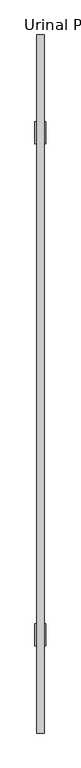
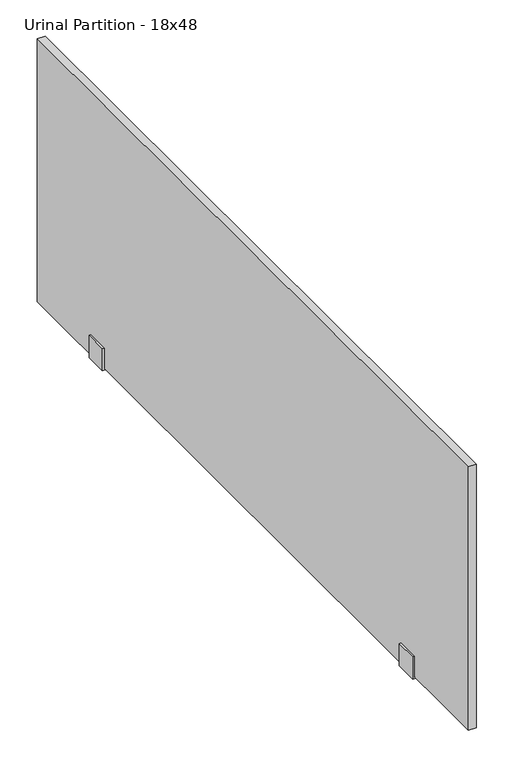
"""IFC4 building model written with IfcOpenShell, lengths in millimetres: proxy geometry, Urinal-Partition_Ironwood-Mfg : Urinal Partition - 18x48."""

from ifc_helpers import new_model, si_unit, frame, origin, place, context, project, spatial, polyline, outline, extrude, source, transform, mapped, element, save


def urinal_partition_18x48_9b326629(model_context):
    return source(origin(), model_context, "Body", "SweptSolid", [
        extrude(outline(polyline([(38.1, 6.35), (3.175, 6.35), (3.175, -6.35), (38.1, -6.35), (38.1, -9.525), (0.0, -9.525), (0.0, 9.525), (38.1, 9.525), (38.1, 6.35)])), frame((0.0, 1333.5, 0.0), z_axis=(0.0, 1.0, 0.0), x_axis=(0.0, 0.0, 1.0)), (0.0, 0.0, 1.0), 38.1),
        extrude(outline(polyline([(38.1, 6.35), (3.175, 6.35), (3.175, -6.35), (38.1, -6.35), (38.1, -9.525), (0.0, -9.525), (0.0, 9.525), (38.1, 9.525), (38.1, 6.35)])), frame((0.0, 457.2, 0.0), z_axis=(0.0, 1.0, 0.0), x_axis=(0.0, 0.0, 1.0)), (0.0, 0.0, 1.0), 38.1),
        extrude(outline(polyline([(-6.35, 304.8), (-6.35, 1523.1614427), (6.35, 1523.1614427), (6.35, 304.8), (-6.35, 304.8)])), frame((0.0, 0.0, 3.175), z_axis=(0.0, 0.0, 1.0), x_axis=(1.0, 0.0, 0.0)), (0.0, 0.0, 1.0), 454.025),
    ])


if __name__ == "__main__":
    model = new_model("IFC4")
    model_context = context("Model", 3, world=origin())
    ifc_project = project(units=[si_unit("LENGTHUNIT", "METRE", prefix="MILLI")], contexts=[model_context])
    site = spatial("IfcSite", under=ifc_project)
    building = spatial("IfcBuilding", under=site)
    placement = place(None, origin())
    urinal_partition_18x48_shape = urinal_partition_18x48_9b326629(model_context)
    element("IfcBuildingElementProxy", 1, Name="Urinal-Partition_Ironwood-Mfg : Urinal Partition - 18x48", ObjectType="Urinal-Partition_Ironwood-Mfg : Urinal Partition - 18x48", at=placement, inside=building, context=model_context, shape_type="MappedRepresentation", body=[
        mapped(urinal_partition_18x48_shape, transform((0.0, 0.0, 0.0), x_axis=(1.0, 0.0, 0.0), y_axis=(0.0, 1.0, 0.0), z_axis=(0.0, 0.0, 1.0))),
    ])
    save(model, "model.ifc")
